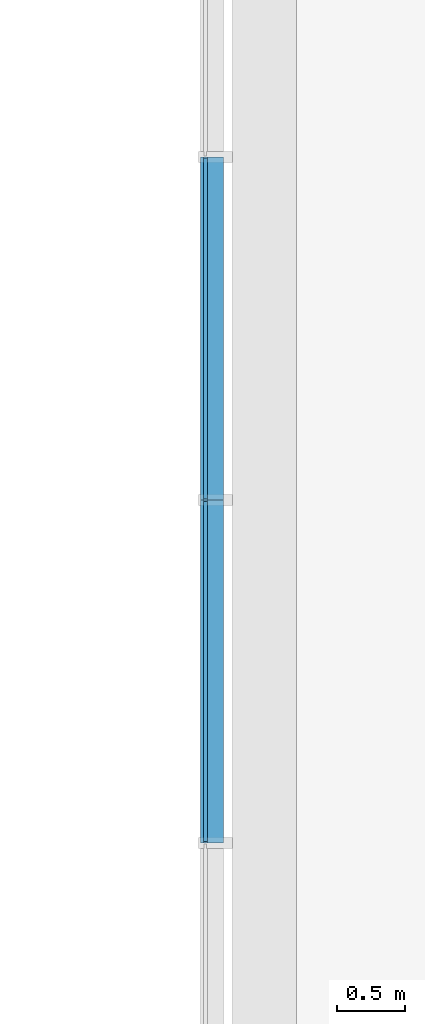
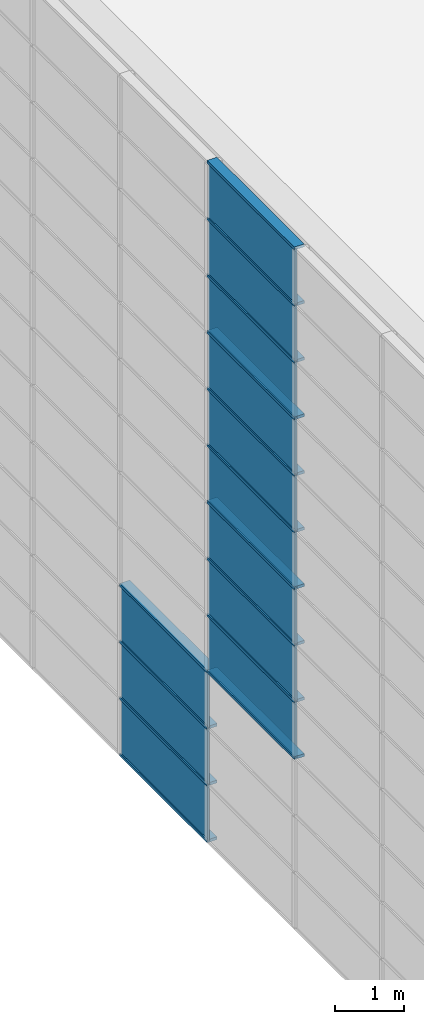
# One storey, part 11 of 105: 29 building element parts, 4 elements without a shape of their own.
"""IFC4 building model written with IfcOpenShell, lengths in millimetres."""

import ifcopenshell
import ifcopenshell.guid

model = None  # the IFC model being written
_history = None  # IfcOwnerHistory: only IFC2X3 demands one
_inside = {}  # id of a spatial element -> (the spatial element, [elements in it])
_under = {}  # id of a project, library or spatial element -> (it, [spatial elements below it])
_declared = {}  # id of a project -> (the project, [libraries it declares])
_typed = {}  # id of a type object -> (the type object, [elements of that type])
_made_of = {}  # id of a material, layer set ... -> (it, [elements and type objects made of it])


def new_model(schema):
    """Start an empty IFC model of exactly this schema.

    Asked for "IFC4X3", IfcOpenShell would pick the latest addendum, in which some entities
    have other attributes; the version numbers below select the first issue.
    IFC2X3 requires an IfcOwnerHistory on every rooted entity: one is made here for all.
    """
    global model, _history
    if schema == "IFC4X3":
        model = ifcopenshell.file(schema_version=(4, 3, 0, 0))
    else:
        model = ifcopenshell.file(schema=schema)
    _inside.clear()
    _under.clear()
    _declared.clear()
    _typed.clear()
    _made_of.clear()
    _history = None
    if model.schema == "IFC2X3":
        org = make("IfcOrganization", Name="unknown")
        user = make(
            "IfcPersonAndOrganization",
            ThePerson=make("IfcPerson", FamilyName="unknown"),
            TheOrganization=org,
        )
        app = make(
            "IfcApplication",
            ApplicationDeveloper=org,
            Version="unknown",
            ApplicationFullName="unknown",
            ApplicationIdentifier="unknown",
        )
        _history = make(
            "IfcOwnerHistory",
            OwningUser=user,
            OwningApplication=app,
            ChangeAction="ADDED",
            CreationDate=0,
        )
    return model


def make(cls, **values):
    """One entity of the class cls with the attributes given. An attribute that is None is left unset."""
    return model.create_entity(
        cls, **{name: value for name, value in values.items() if value is not None}
    )


def entity(cls, *values):
    """Any entity or typed value of the class cls, its attributes in the order of the schema. None: left unset."""
    e = model.create_entity(cls)
    for i, value in enumerate(values):
        if value is not None:
            e[i] = value
    return e


def rooted(cls, **values):
    """An entity with a GlobalId (a new one), such as an element, a storey or a relation."""
    return make(cls, GlobalId=ifcopenshell.guid.new(), OwnerHistory=_history, **values)


def si_unit(unit_type, name, prefix=None):
    """IfcSIUnit, for example si_unit("LENGTHUNIT", "METRE", prefix="MILLI")."""
    return make("IfcSIUnit", UnitType=unit_type, Prefix=prefix, Name=name)


def converted_unit(unit_type, name, factor, base, dimensions=None, offset=None):
    """IfcConversionBasedUnit, such as the inch: factor (a typed value) times the base unit."""
    return make(
        "IfcConversionBasedUnit"
        if offset is None
        else "IfcConversionBasedUnitWithOffset",
        ConversionOffset=offset,
        Dimensions=None
        if dimensions is None
        else entity("IfcDimensionalExponents", *dimensions),
        UnitType=unit_type,
        Name=name,
        ConversionFactor=make(
            "IfcMeasureWithUnit", ValueComponent=factor, UnitComponent=base
        ),
    )


def derived_unit(unit_type, elements):
    """IfcDerivedUnit: a product of units, each with its exponent."""
    return make(
        "IfcDerivedUnit",
        Elements=[
            make("IfcDerivedUnitElement", Unit=unit, Exponent=power)
            for unit, power in elements
        ],
        UnitType=unit_type,
    )


def assignment(units):
    """IfcUnitAssignment: the units of a project."""
    return None if units is None else make("IfcUnitAssignment", Units=units)


def point(xyz):
    """IfcCartesianPoint."""
    return None if xyz is None else make("IfcCartesianPoint", Coordinates=xyz)


def direction(xyz):
    """IfcDirection."""
    return None if xyz is None else make("IfcDirection", DirectionRatios=xyz)


def frame(location, z_axis=None, x_axis=None):
    """IfcAxis2Placement3D, a coordinate frame: its origin and axes. An axis left out is left unset."""
    return make(
        "IfcAxis2Placement3D",
        Location=point(location),
        Axis=direction(z_axis),
        RefDirection=direction(x_axis),
    )


def origin_with_axes():
    """The frame at (0, 0, 0) with the z axis (0, 0, 1) and the x axis (1, 0, 0) written out."""
    return frame((0.0, 0.0, 0.0), z_axis=(0.0, 0.0, 1.0), x_axis=(1.0, 0.0, 0.0))


def place(relative_to, where):
    """IfcLocalPlacement: puts the frame where relative to a parent placement (None: the world)."""
    return make(
        "IfcLocalPlacement", PlacementRelTo=relative_to, RelativePlacement=where
    )


def context(
    kind, dimensions, precision=None, world=None, true_north=None, identifier=None
):
    """IfcGeometricRepresentationContext, for example the 3D "Model" context."""
    return make(
        "IfcGeometricRepresentationContext",
        ContextIdentifier=identifier,
        ContextType=kind,
        CoordinateSpaceDimension=dimensions,
        Precision=precision,
        WorldCoordinateSystem=world,
        TrueNorth=true_north,
    )


def subcontext(parent, identifier, kind, view, scale=None):
    """IfcGeometricRepresentationSubContext, for example "Body" below "Model"."""
    return make(
        "IfcGeometricRepresentationSubContext",
        ContextIdentifier=identifier,
        ContextType=kind,
        ParentContext=parent,
        TargetScale=scale,
        TargetView=view,
    )


def project(units=None, contexts=None):
    """IfcProject with its units and contexts."""
    return rooted(
        "IfcProject",
        Name="project",
        RepresentationContexts=contexts,
        UnitsInContext=assignment(units),
    )


def spatial(cls, under=None, at=None, **own):
    """A site, building, storey or space (cls), placed at a placement, below another one or the project."""
    s = rooted(cls, ObjectPlacement=at, **own)
    if under is not None:
        _under.setdefault(under.id(), (under, []))[1].append(s)
    return s


def point_list(points):
    """IfcCartesianPointList2D or 3D."""
    cls = (
        "IfcCartesianPointList2D" if len(points[0]) == 2 else "IfcCartesianPointList3D"
    )
    return make(cls, CoordList=points)


def triangles(points, corners, closed=None, point_numbers=None):
    """IfcTriangulatedFaceSet: each triangle names its three corners, points numbered from 1."""
    return make(
        "IfcTriangulatedFaceSet",
        Coordinates=point_list(points),
        Closed=closed,
        CoordIndex=corners,
        PnIndex=point_numbers,
    )


def shape(context_of_items, identifier, shape_type, items):
    """IfcShapeRepresentation: the items that make up one representation, for example the "Body"."""
    return make(
        "IfcShapeRepresentation",
        ContextOfItems=context_of_items,
        RepresentationIdentifier=identifier,
        RepresentationType=shape_type,
        Items=items,
    )


def material(Name=None, Category=None):
    """IfcMaterial."""
    return make("IfcMaterial", Name=Name, Category=Category)


def made_of(thing, what):
    """Note that an element or type object is made of a material, layer set ...; save() writes the relation."""
    if what is not None:
        _made_of.setdefault(what.id(), (what, []))[1].append(thing)
    return thing


def element(
    cls,
    number,
    at=None,
    inside=None,
    cuts=None,
    type_object=None,
    material=None,
    context=None,
    identifier="Body",
    shape_type=None,
    held_by="IfcProductDefinitionShape",
    body=None,
    shapes=None,
    **own,
):
    """One element of the class cls, such as IfcWall. Its Tag is "e" and its number.

    at: its placement. inside: the storey or other place that contains it. cuts: it is an
    opening in that element (IfcRelVoidsElement). A single representation is given by context,
    identifier, shape_type and body (its items); several are given by shapes. held_by: the class
    of the entity that holds the representations. save() writes the other relations.
    """
    e = rooted(cls, Tag="e%d" % number, ObjectPlacement=at, **own)
    if body is not None:
        shapes = [shape(context, identifier, shape_type, body)]
    if shapes is not None:
        e.Representation = make(held_by, Representations=shapes)
    if inside is not None:
        _inside.setdefault(inside.id(), (inside, []))[1].append(e)
    if cuts is not None:
        rooted(
            "IfcRelVoidsElement", RelatingBuildingElement=cuts, RelatedOpeningElement=e
        )
    if type_object is not None:
        _typed.setdefault(type_object.id(), (type_object, []))[1].append(e)
    return made_of(e, material)


def aggregate(whole, parts):
    """IfcRelAggregates: a whole, such as a stair, and the parts it consists of."""
    return rooted("IfcRelAggregates", RelatingObject=whole, RelatedObjects=parts)


def save(model, path):
    """Write the relations noted so far, then the file.

    IfcRelAggregates (storeys below a building ...), IfcRelContainedInSpatialStructure (elements
    in a storey), IfcRelDefinesByType, IfcRelAssociatesMaterial and IfcRelDeclares: one each for
    every whole, place, type object, material and project.
    """
    for whole, parts in _under.values():
        aggregate(whole, parts)
    for where, things in _inside.values():
        rooted(
            "IfcRelContainedInSpatialStructure",
            RelatedElements=things,
            RelatingStructure=where,
        )
    for kind, things in _typed.values():
        rooted("IfcRelDefinesByType", RelatedObjects=things, RelatingType=kind)
    for what, things in _made_of.values():
        rooted("IfcRelAssociatesMaterial", RelatedObjects=things, RelatingMaterial=what)
    for by, libraries in _declared.values():
        rooted("IfcRelDeclares", RelatingContext=by, RelatedDefinitions=libraries)
    model.write(path)


model = new_model("IFC4")

# Units and contexts
model_context = context("Model", 3, precision=1e-05, world=origin_with_axes(), true_north=direction((0.0, 1.0)))
body_context = subcontext(model_context, "Body", "Model", "MODEL_VIEW")
ifc_project = project(units=[si_unit("LENGTHUNIT", "METRE", prefix="MILLI"), si_unit("AREAUNIT", "SQUARE_METRE"), si_unit("VOLUMEUNIT", "CUBIC_METRE"), converted_unit("PLANEANGLEUNIT", "DEGREE", entity("IfcLengthMeasure", 0.017453), si_unit("PLANEANGLEUNIT", "RADIAN"), dimensions=[0, 0, 0, 0, 0, 0, 0]), si_unit("SOLIDANGLEUNIT", "STERADIAN"), si_unit("MASSUNIT", "GRAM"), si_unit("TIMEUNIT", "SECOND"), si_unit("THERMODYNAMICTEMPERATUREUNIT", "DEGREE_CELSIUS"), si_unit("LUMINOUSINTENSITYUNIT", "LUMEN"), si_unit("POWERUNIT", "WATT"), derived_unit("THERMALTRANSMITTANCEUNIT", [(si_unit("POWERUNIT", "WATT"), 1), (si_unit("THERMODYNAMICTEMPERATUREUNIT", "KELVIN"), -1), (si_unit("AREAUNIT", "SQUARE_METRE"), -1)])], contexts=[model_context])

# Site, building, storey
site_placement = place(None, origin_with_axes())
site = spatial("IfcSite", under=ifc_project, at=site_placement, Name="Default Site", CompositionType="ELEMENT")
building_placement = place(site_placement, origin_with_axes())
building = spatial("IfcBuilding", under=site, at=building_placement, Name="Default Building", CompositionType="ELEMENT")
storey_placement = place(building_placement, origin_with_axes())
storey = spatial("IfcBuildingStorey", under=building, at=storey_placement, Name="OG - Story", CompositionType="ELEMENT", Elevation=0.0)

# Curtain wall, building element parts
curtain_wall_1_placement = place(storey_placement, origin_with_axes())
curtain_wall_1 = element("IfcCurtainWall", 1, at=curtain_wall_1_placement, inside=storey, Name="Fassade-003", PredefinedType="NOTDEFINED")
ifc_material_1 = material(Name="Normalglas")
building_element_part_1_placement = place(curtain_wall_1_placement, frame((31551.391327, -51326.104944, 0.0), z_axis=(0.0, 0.0, 1.0), x_axis=(1.0, 0.0, 0.0)))
building_element_part_1 = element("IfcBuildingElementPart", 2, at=building_element_part_1_placement, material=ifc_material_1, Name="Normalglas", PredefinedType="NOTDEFINED", context=body_context, shape_type="Tessellation", body=[
    triangles([(15.0, 16411.053, 995.0), (-14.999, 16411.053, 995.0), (-14.999, 13904.737, 995.0), (15.0, 13904.737, 995.0), (15.0, 16411.053, 5.0), (-14.999, 16411.053, 5.0), (-14.999, 13904.737, 5.0), (15.0, 13904.737, 5.0)], [[1, 2, 3], [1, 3, 4], [5, 6, 2], [5, 2, 1], [2, 6, 7], [2, 7, 3], [4, 3, 7], [4, 7, 8], [1, 4, 8], [1, 8, 5], [8, 7, 6], [8, 6, 5]], closed=False),
])
building_element_part_2_placement = place(curtain_wall_1_placement, frame((31551.391327, -51326.104944, 0.0), z_axis=(0.0, 0.0, 1.0), x_axis=(1.0, 0.0, 0.0)))
building_element_part_2 = element("IfcBuildingElementPart", 3, at=building_element_part_2_placement, material=ifc_material_1, Name="Normalglas", PredefinedType="NOTDEFINED", context=body_context, shape_type="Tessellation", body=[
    triangles([(15.0, 16411.053, 1995.0), (-14.999, 16411.053, 1995.0), (-14.999, 13904.737, 1995.0), (15.0, 13904.737, 1995.0), (15.0, 16411.053, 1005.0), (-14.999, 16411.053, 1005.0), (-14.999, 13904.737, 1005.0), (15.0, 13904.737, 1005.0)], [[1, 2, 3], [1, 3, 4], [5, 6, 2], [5, 2, 1], [2, 6, 7], [2, 7, 3], [4, 3, 7], [4, 7, 8], [1, 4, 8], [1, 8, 5], [8, 7, 6], [8, 6, 5]], closed=False),
])
building_element_part_3_placement = place(curtain_wall_1_placement, frame((31551.391327, -51326.104944, 0.0), z_axis=(0.0, 0.0, 1.0), x_axis=(1.0, 0.0, 0.0)))
building_element_part_3 = element("IfcBuildingElementPart", 4, at=building_element_part_3_placement, material=ifc_material_1, Name="Normalglas", PredefinedType="NOTDEFINED", context=body_context, shape_type="Tessellation", body=[
    triangles([(15.0, 16411.053, 2995.0), (-14.999, 16411.053, 2995.0), (-14.999, 13904.737, 2995.0), (15.0, 13904.737, 2995.0), (15.0, 16411.053, 2005.0), (-14.999, 16411.053, 2005.0), (-14.999, 13904.737, 2005.0), (15.0, 13904.737, 2005.0)], [[1, 2, 3], [1, 3, 4], [5, 6, 2], [5, 2, 1], [2, 6, 7], [2, 7, 3], [4, 3, 7], [4, 7, 8], [1, 4, 8], [1, 8, 5], [8, 7, 6], [8, 6, 5]], closed=False),
])
ifc_material_2 = material(Name="Blech")
building_element_part_4_placement = place(curtain_wall_1_placement, frame((31551.391327, -51326.104944, 0.0), z_axis=(0.0, 0.0, 1.0), x_axis=(1.0, 0.0, 0.0)))
building_element_part_4 = element("IfcBuildingElementPart", 5, at=building_element_part_4_placement, material=ifc_material_2, Name="Blech", PredefinedType="NOTDEFINED", context=body_context, shape_type="Tessellation", body=[
    triangles([(15.0, 16421.053, 25.0), (133.0, 16421.053, 25.0), (15.0, 16421.053, 5.0), (133.0, 16421.053, -24.999), (-14.999, 16421.053, 5.0), (-34.999, 16421.053, -24.999), (-34.999, 16421.053, 25.0), (-14.999, 16421.053, 25.0), (15.0, 13894.737, 5.0), (15.0, 13894.737, 25.0), (133.0, 13894.737, 25.0), (133.0, 13894.737, -24.999), (-34.999, 13894.737, -24.999), (-34.999, 13894.737, 25.0), (-14.999, 13894.737, 25.0), (-14.999, 13894.737, 5.0)], [[1, 2, 3], [3, 2, 4], [3, 4, 5], [5, 4, 6], [5, 6, 7], [5, 7, 8], [3, 9, 10], [3, 10, 1], [10, 11, 2], [10, 2, 1], [11, 12, 4], [11, 4, 2], [12, 13, 6], [12, 6, 4], [13, 14, 7], [13, 7, 6], [8, 7, 14], [8, 14, 15], [15, 16, 5], [15, 5, 8], [5, 16, 9], [5, 9, 3], [16, 9, 12], [16, 12, 13], [16, 13, 14], [16, 14, 15], [11, 12, 9], [11, 9, 10]], closed=False),
])
building_element_part_5_placement = place(curtain_wall_1_placement, frame((31551.391327, -51326.104944, 0.0), z_axis=(0.0, 0.0, 1.0), x_axis=(1.0, 0.0, 0.0)))
building_element_part_5 = element("IfcBuildingElementPart", 6, at=building_element_part_5_placement, material=ifc_material_2, Name="Blech", PredefinedType="NOTDEFINED", context=body_context, shape_type="Tessellation", body=[
    triangles([(-14.999, 16421.053, 1025.0), (-34.999, 16421.053, 1025.0), (-14.999, 16421.053, 1005.0), (-14.999, 16421.053, 995.0), (15.0, 16421.053, 1005.0), (133.0, 16421.053, 1025.0), (15.0, 16421.053, 1025.0), (-34.999, 16421.053, 975.0), (-14.999, 16421.053, 975.0), (15.0, 16421.053, 995.0), (15.0, 16421.053, 975.0), (133.0, 16421.053, 975.0), (15.0, 13894.737, 995.0), (-14.999, 13894.737, 995.0), (-14.999, 13894.737, 975.0), (-34.999, 13894.737, 975.0), (-34.999, 13894.737, 1025.0), (-14.999, 13894.737, 1025.0), (-14.999, 13894.737, 1005.0), (15.0, 13894.737, 1005.0), (15.0, 13894.737, 1025.0), (133.0, 13894.737, 1025.0), (133.0, 13894.737, 975.0), (15.0, 13894.737, 975.0)], [[1, 2, 3], [3, 2, 4], [3, 4, 5], [5, 4, 6], [5, 6, 7], [8, 9, 4], [8, 4, 2], [6, 4, 10], [6, 10, 11], [6, 11, 12], [10, 13, 14], [10, 14, 4], [4, 14, 15], [4, 15, 9], [15, 16, 8], [15, 8, 9], [8, 16, 17], [8, 17, 2], [18, 1, 2], [18, 2, 17], [1, 18, 19], [1, 19, 3], [5, 3, 19], [5, 19, 20], [7, 5, 20], [7, 20, 21], [7, 21, 22], [7, 22, 6], [6, 22, 23], [6, 23, 12], [11, 12, 23], [11, 23, 24], [11, 24, 13], [11, 13, 10], [21, 22, 20], [20, 22, 13], [20, 13, 19], [19, 13, 14], [19, 14, 17], [17, 14, 15], [17, 15, 16], [23, 24, 13], [23, 13, 22], [19, 17, 18]], closed=False),
])
building_element_part_6_placement = place(curtain_wall_1_placement, frame((31551.391327, -51326.104944, 0.0), z_axis=(0.0, 0.0, 1.0), x_axis=(1.0, 0.0, 0.0)))
building_element_part_6 = element("IfcBuildingElementPart", 7, at=building_element_part_6_placement, material=ifc_material_2, Name="Blech", PredefinedType="NOTDEFINED", context=body_context, shape_type="Tessellation", body=[
    triangles([(-14.999, 13894.737, 2995.0), (15.0, 13894.737, 2995.0), (133.0, 13894.737, 3025.0), (-34.999, 13894.737, 3025.0), (-34.999, 13894.737, 2975.0), (-14.999, 13894.737, 2975.0), (15.0, 13894.737, 2975.0), (133.0, 13894.737, 2975.0), (15.0, 11368.421, 2995.0), (-14.999, 11368.421, 2995.0), (-14.999, 11368.421, 2975.0), (-34.999, 11368.421, 2975.0), (-34.999, 11368.421, 3025.0), (133.0, 11368.421, 3025.0), (133.0, 11368.421, 2975.0), (15.0, 11368.421, 2975.0)], [[1, 2, 3], [1, 3, 4], [1, 4, 5], [1, 5, 6], [7, 8, 3], [7, 3, 2], [1, 2, 9], [1, 9, 10], [11, 6, 1], [11, 1, 10], [6, 11, 12], [6, 12, 5], [13, 4, 5], [13, 5, 12], [14, 3, 4], [14, 4, 13], [15, 8, 3], [15, 3, 14], [16, 7, 8], [16, 8, 15], [2, 7, 16], [2, 16, 9], [10, 9, 14], [10, 14, 13], [10, 13, 12], [10, 12, 11], [16, 15, 14], [16, 14, 9]], closed=False),
])
building_element_part_7_placement = place(curtain_wall_1_placement, frame((31551.391327, -51326.104944, 0.0), z_axis=(0.0, 0.0, 1.0), x_axis=(1.0, 0.0, 0.0)))
building_element_part_7 = element("IfcBuildingElementPart", 8, at=building_element_part_7_placement, material=ifc_material_2, Name="Blech", PredefinedType="NOTDEFINED", context=body_context, shape_type="Tessellation", body=[
    triangles([(-14.999, 16421.053, 2025.0), (-34.999, 16421.053, 2025.0), (-14.999, 16421.053, 2005.0), (-14.999, 16421.053, 1995.0), (15.0, 16421.053, 2005.0), (133.0, 16421.053, 2025.0), (15.0, 16421.053, 2025.0), (-34.999, 16421.053, 1975.0), (-14.999, 16421.053, 1975.0), (15.0, 16421.053, 1995.0), (15.0, 16421.053, 1975.0), (133.0, 16421.053, 1975.0), (15.0, 13894.737, 1995.0), (-14.999, 13894.737, 1995.0), (-14.999, 13894.737, 1975.0), (-34.999, 13894.737, 1975.0), (-34.999, 13894.737, 2025.0), (-14.999, 13894.737, 2025.0), (-14.999, 13894.737, 2005.0), (15.0, 13894.737, 2005.0), (15.0, 13894.737, 2025.0), (133.0, 13894.737, 2025.0), (133.0, 13894.737, 1975.0), (15.0, 13894.737, 1975.0)], [[1, 2, 3], [3, 2, 4], [3, 4, 5], [5, 4, 6], [5, 6, 7], [8, 9, 4], [8, 4, 2], [6, 4, 10], [6, 10, 11], [6, 11, 12], [10, 13, 14], [10, 14, 4], [4, 14, 15], [4, 15, 9], [15, 16, 8], [15, 8, 9], [8, 16, 17], [8, 17, 2], [18, 1, 2], [18, 2, 17], [1, 18, 19], [1, 19, 3], [5, 3, 19], [5, 19, 20], [7, 5, 20], [7, 20, 21], [7, 21, 22], [7, 22, 6], [6, 22, 23], [6, 23, 12], [11, 12, 23], [11, 23, 24], [11, 24, 13], [11, 13, 10], [21, 22, 20], [20, 22, 13], [20, 13, 19], [19, 13, 14], [19, 14, 17], [17, 14, 15], [17, 15, 16], [23, 24, 13], [23, 13, 22], [19, 17, 18]], closed=False),
])
building_element_part_8_placement = place(curtain_wall_1_placement, frame((31551.391327, -51326.104944, 0.0), z_axis=(0.0, 0.0, 1.0), x_axis=(1.0, 0.0, 0.0)))
building_element_part_8 = element("IfcBuildingElementPart", 9, at=building_element_part_8_placement, material=ifc_material_2, Name="Blech", PredefinedType="NOTDEFINED", context=body_context, shape_type="Tessellation", body=[
    triangles([(-14.999, 16421.053, 2995.0), (15.0, 16421.053, 2995.0), (133.0, 16421.053, 3025.0), (-34.999, 16421.053, 3025.0), (-34.999, 16421.053, 2975.0), (-14.999, 16421.053, 2975.0), (15.0, 16421.053, 2975.0), (133.0, 16421.053, 2975.0), (15.0, 13894.737, 2995.0), (-14.999, 13894.737, 2995.0), (-14.999, 13894.737, 2975.0), (-34.999, 13894.737, 2975.0), (-34.999, 13894.737, 3025.0), (133.0, 13894.737, 3025.0), (133.0, 13894.737, 2975.0), (15.0, 13894.737, 2975.0)], [[1, 2, 3], [1, 3, 4], [1, 4, 5], [1, 5, 6], [7, 8, 3], [7, 3, 2], [1, 2, 9], [1, 9, 10], [11, 6, 1], [11, 1, 10], [6, 11, 12], [6, 12, 5], [13, 4, 5], [13, 5, 12], [14, 3, 4], [14, 4, 13], [15, 8, 3], [15, 3, 14], [16, 7, 8], [16, 8, 15], [2, 7, 16], [2, 16, 9], [10, 9, 14], [10, 14, 13], [10, 13, 12], [10, 12, 11], [16, 15, 14], [16, 14, 9]], closed=False),
])
aggregate(curtain_wall_1, [building_element_part_1, building_element_part_2, building_element_part_3, building_element_part_4, building_element_part_5, building_element_part_6, building_element_part_7, building_element_part_8])

curtain_wall_2_placement = place(storey_placement, origin_with_axes())
curtain_wall_2 = element("IfcCurtainWall", 10, at=curtain_wall_2_placement, inside=storey, Name="Fassade-003", PredefinedType="NOTDEFINED")
building_element_part_9_placement = place(curtain_wall_2_placement, frame((31551.391327, -51326.104944, 3000.0), z_axis=(0.0, 0.0, 1.0), x_axis=(1.0, 0.0, 0.0)))
building_element_part_9 = element("IfcBuildingElementPart", 11, at=building_element_part_9_placement, material=ifc_material_1, Name="Normalglas", PredefinedType="NOTDEFINED", context=body_context, shape_type="Tessellation", body=[
    triangles([(15.0, 13884.737, 995.0), (-14.999, 13884.737, 995.0), (-14.999, 11378.421, 995.0), (15.0, 11378.421, 995.0), (15.0, 13884.737, 5.0), (-14.999, 13884.737, 5.0), (-14.999, 11378.421, 5.0), (15.0, 11378.421, 5.0)], [[1, 2, 3], [1, 3, 4], [5, 6, 2], [5, 2, 1], [2, 6, 7], [2, 7, 3], [4, 3, 7], [4, 7, 8], [1, 4, 8], [1, 8, 5], [8, 7, 6], [8, 6, 5]], closed=False),
])
building_element_part_10_placement = place(curtain_wall_2_placement, frame((31551.391327, -51326.104944, 3000.0), z_axis=(0.0, 0.0, 1.0), x_axis=(1.0, 0.0, 0.0)))
building_element_part_10 = element("IfcBuildingElementPart", 12, at=building_element_part_10_placement, material=ifc_material_1, Name="Normalglas", PredefinedType="NOTDEFINED", context=body_context, shape_type="Tessellation", body=[
    triangles([(15.0, 13884.737, 1995.0), (-14.999, 13884.737, 1995.0), (-14.999, 11378.421, 1995.0), (15.0, 11378.421, 1995.0), (15.0, 13884.737, 1005.0), (-14.999, 13884.737, 1005.0), (-14.999, 11378.421, 1005.0), (15.0, 11378.421, 1005.0)], [[1, 2, 3], [1, 3, 4], [5, 6, 2], [5, 2, 1], [2, 6, 7], [2, 7, 3], [4, 3, 7], [4, 7, 8], [1, 4, 8], [1, 8, 5], [8, 7, 6], [8, 6, 5]], closed=False),
])
building_element_part_11_placement = place(curtain_wall_2_placement, frame((31551.391327, -51326.104944, 3000.0), z_axis=(0.0, 0.0, 1.0), x_axis=(1.0, 0.0, 0.0)))
building_element_part_11 = element("IfcBuildingElementPart", 13, at=building_element_part_11_placement, material=ifc_material_1, Name="Normalglas", PredefinedType="NOTDEFINED", context=body_context, shape_type="Tessellation", body=[
    triangles([(15.0, 13884.737, 2995.0), (-14.999, 13884.737, 2995.0), (-14.999, 11378.421, 2995.0), (15.0, 11378.421, 2995.0), (15.0, 13884.737, 2005.0), (-14.999, 13884.737, 2005.0), (-14.999, 11378.421, 2005.0), (15.0, 11378.421, 2005.0)], [[1, 2, 3], [1, 3, 4], [5, 6, 2], [5, 2, 1], [2, 6, 7], [2, 7, 3], [4, 3, 7], [4, 7, 8], [1, 4, 8], [1, 8, 5], [8, 7, 6], [8, 6, 5]], closed=False),
])
building_element_part_12_placement = place(curtain_wall_2_placement, frame((31551.391327, -51326.104944, 3000.0), z_axis=(0.0, 0.0, 1.0), x_axis=(1.0, 0.0, 0.0)))
building_element_part_12 = element("IfcBuildingElementPart", 14, at=building_element_part_12_placement, material=ifc_material_2, Name="Blech", PredefinedType="NOTDEFINED", context=body_context, shape_type="Tessellation", body=[
    triangles([(15.0, 13894.737, 25.0), (133.0, 13894.737, 25.0), (15.0, 13894.737, 5.0), (133.0, 13894.737, -24.999), (-14.999, 13894.737, 5.0), (-34.999, 13894.737, -24.999), (-34.999, 13894.737, 25.0), (-14.999, 13894.737, 25.0), (15.0, 11368.421, 5.0), (15.0, 11368.421, 25.0), (133.0, 11368.421, 25.0), (133.0, 11368.421, -24.999), (-34.999, 11368.421, -24.999), (-34.999, 11368.421, 25.0), (-14.999, 11368.421, 25.0), (-14.999, 11368.421, 5.0)], [[1, 2, 3], [3, 2, 4], [3, 4, 5], [5, 4, 6], [5, 6, 7], [5, 7, 8], [3, 9, 10], [3, 10, 1], [10, 11, 2], [10, 2, 1], [11, 12, 4], [11, 4, 2], [12, 13, 6], [12, 6, 4], [13, 14, 7], [13, 7, 6], [8, 7, 14], [8, 14, 15], [15, 16, 5], [15, 5, 8], [5, 16, 9], [5, 9, 3], [16, 9, 12], [16, 12, 13], [16, 13, 14], [16, 14, 15], [11, 12, 9], [11, 9, 10]], closed=False),
])
building_element_part_13_placement = place(curtain_wall_2_placement, frame((31551.391327, -51326.104944, 3000.0), z_axis=(0.0, 0.0, 1.0), x_axis=(1.0, 0.0, 0.0)))
building_element_part_13 = element("IfcBuildingElementPart", 15, at=building_element_part_13_placement, material=ifc_material_2, Name="Blech", PredefinedType="NOTDEFINED", context=body_context, shape_type="Tessellation", body=[
    triangles([(-14.999, 13894.737, 1025.0), (-34.999, 13894.737, 1025.0), (-14.999, 13894.737, 1005.0), (-14.999, 13894.737, 995.0), (15.0, 13894.737, 1005.0), (133.0, 13894.737, 1025.0), (15.0, 13894.737, 1025.0), (-34.999, 13894.737, 975.0), (-14.999, 13894.737, 975.0), (15.0, 13894.737, 995.0), (15.0, 13894.737, 975.0), (133.0, 13894.737, 975.0), (15.0, 11368.421, 995.0), (-14.999, 11368.421, 995.0), (-14.999, 11368.421, 975.0), (-34.999, 11368.421, 975.0), (-34.999, 11368.421, 1025.0), (-14.999, 11368.421, 1025.0), (-14.999, 11368.421, 1005.0), (15.0, 11368.421, 1005.0), (15.0, 11368.421, 1025.0), (133.0, 11368.421, 1025.0), (133.0, 11368.421, 975.0), (15.0, 11368.421, 975.0)], [[1, 2, 3], [3, 2, 4], [3, 4, 5], [5, 4, 6], [5, 6, 7], [8, 9, 4], [8, 4, 2], [6, 4, 10], [6, 10, 11], [6, 11, 12], [10, 13, 14], [10, 14, 4], [4, 14, 15], [4, 15, 9], [15, 16, 8], [15, 8, 9], [8, 16, 17], [8, 17, 2], [18, 1, 2], [18, 2, 17], [1, 18, 19], [1, 19, 3], [5, 3, 19], [5, 19, 20], [7, 5, 20], [7, 20, 21], [7, 21, 22], [7, 22, 6], [6, 22, 23], [6, 23, 12], [11, 12, 23], [11, 23, 24], [11, 24, 13], [11, 13, 10], [21, 22, 20], [20, 22, 13], [20, 13, 19], [19, 13, 14], [19, 14, 17], [17, 14, 15], [17, 15, 16], [23, 24, 13], [23, 13, 22], [19, 17, 18]], closed=False),
])
building_element_part_14_placement = place(curtain_wall_2_placement, frame((31551.391327, -51326.104944, 3000.0), z_axis=(0.0, 0.0, 1.0), x_axis=(1.0, 0.0, 0.0)))
building_element_part_14 = element("IfcBuildingElementPart", 16, at=building_element_part_14_placement, material=ifc_material_2, Name="Blech", PredefinedType="NOTDEFINED", context=body_context, shape_type="Tessellation", body=[
    triangles([(-14.999, 13894.737, 2025.0), (-34.999, 13894.737, 2025.0), (-14.999, 13894.737, 2005.0), (-14.999, 13894.737, 1995.0), (15.0, 13894.737, 2005.0), (133.0, 13894.737, 2025.0), (15.0, 13894.737, 2025.0), (-34.999, 13894.737, 1975.0), (-14.999, 13894.737, 1975.0), (15.0, 13894.737, 1995.0), (15.0, 13894.737, 1975.0), (133.0, 13894.737, 1975.0), (15.0, 11368.421, 1995.0), (-14.999, 11368.421, 1995.0), (-14.999, 11368.421, 1975.0), (-34.999, 11368.421, 1975.0), (-34.999, 11368.421, 2025.0), (-14.999, 11368.421, 2025.0), (-14.999, 11368.421, 2005.0), (15.0, 11368.421, 2005.0), (15.0, 11368.421, 2025.0), (133.0, 11368.421, 2025.0), (133.0, 11368.421, 1975.0), (15.0, 11368.421, 1975.0)], [[1, 2, 3], [3, 2, 4], [3, 4, 5], [5, 4, 6], [5, 6, 7], [8, 9, 4], [8, 4, 2], [6, 4, 10], [6, 10, 11], [6, 11, 12], [10, 13, 14], [10, 14, 4], [4, 14, 15], [4, 15, 9], [15, 16, 8], [15, 8, 9], [8, 16, 17], [8, 17, 2], [18, 1, 2], [18, 2, 17], [1, 18, 19], [1, 19, 3], [5, 3, 19], [5, 19, 20], [7, 5, 20], [7, 20, 21], [7, 21, 22], [7, 22, 6], [6, 22, 23], [6, 23, 12], [11, 12, 23], [11, 23, 24], [11, 24, 13], [11, 13, 10], [21, 22, 20], [20, 22, 13], [20, 13, 19], [19, 13, 14], [19, 14, 17], [17, 14, 15], [17, 15, 16], [23, 24, 13], [23, 13, 22], [19, 17, 18]], closed=False),
])
building_element_part_15_placement = place(curtain_wall_2_placement, frame((31551.391327, -51326.104944, 3000.0), z_axis=(0.0, 0.0, 1.0), x_axis=(1.0, 0.0, 0.0)))
building_element_part_15 = element("IfcBuildingElementPart", 17, at=building_element_part_15_placement, material=ifc_material_2, Name="Blech", PredefinedType="NOTDEFINED", context=body_context, shape_type="Tessellation", body=[
    triangles([(-14.999, 13894.737, 2995.0), (15.0, 13894.737, 2995.0), (133.0, 13894.737, 3025.0), (-34.999, 13894.737, 3025.0), (-34.999, 13894.737, 2975.0), (-14.999, 13894.737, 2975.0), (15.0, 13894.737, 2975.0), (133.0, 13894.737, 2975.0), (15.0, 11368.421, 2995.0), (-14.999, 11368.421, 2995.0), (-14.999, 11368.421, 2975.0), (-34.999, 11368.421, 2975.0), (-34.999, 11368.421, 3025.0), (133.0, 11368.421, 3025.0), (133.0, 11368.421, 2975.0), (15.0, 11368.421, 2975.0)], [[1, 2, 3], [1, 3, 4], [1, 4, 5], [1, 5, 6], [7, 8, 3], [7, 3, 2], [1, 2, 9], [1, 9, 10], [11, 6, 1], [11, 1, 10], [6, 11, 12], [6, 12, 5], [13, 4, 5], [13, 5, 12], [14, 3, 4], [14, 4, 13], [15, 8, 3], [15, 3, 14], [16, 7, 8], [16, 8, 15], [2, 7, 16], [2, 16, 9], [10, 9, 14], [10, 14, 13], [10, 13, 12], [10, 12, 11], [16, 15, 14], [16, 14, 9]], closed=False),
])
aggregate(curtain_wall_2, [building_element_part_9, building_element_part_10, building_element_part_11, building_element_part_12, building_element_part_13, building_element_part_14, building_element_part_15])

curtain_wall_3_placement = place(storey_placement, origin_with_axes())
curtain_wall_3 = element("IfcCurtainWall", 18, at=curtain_wall_3_placement, inside=storey, Name="Fassade-003", PredefinedType="NOTDEFINED")
building_element_part_16_placement = place(curtain_wall_3_placement, frame((31551.391327, -51326.104944, 6000.0), z_axis=(0.0, 0.0, 1.0), x_axis=(1.0, 0.0, 0.0)))
building_element_part_16 = element("IfcBuildingElementPart", 19, at=building_element_part_16_placement, material=ifc_material_1, Name="Normalglas", PredefinedType="NOTDEFINED", context=body_context, shape_type="Tessellation", body=[
    triangles([(15.0, 13884.737, 995.0), (-14.999, 13884.737, 995.0), (-14.999, 11378.421, 995.0), (15.0, 11378.421, 995.0), (15.0, 13884.737, 5.0), (-14.999, 13884.737, 5.0), (-14.999, 11378.421, 5.0), (15.0, 11378.421, 5.0)], [[1, 2, 3], [1, 3, 4], [5, 6, 2], [5, 2, 1], [2, 6, 7], [2, 7, 3], [4, 3, 7], [4, 7, 8], [1, 4, 8], [1, 8, 5], [8, 7, 6], [8, 6, 5]], closed=False),
])
building_element_part_17_placement = place(curtain_wall_3_placement, frame((31551.391327, -51326.104944, 6000.0), z_axis=(0.0, 0.0, 1.0), x_axis=(1.0, 0.0, 0.0)))
building_element_part_17 = element("IfcBuildingElementPart", 20, at=building_element_part_17_placement, material=ifc_material_1, Name="Normalglas", PredefinedType="NOTDEFINED", context=body_context, shape_type="Tessellation", body=[
    triangles([(15.0, 13884.737, 1995.0), (-14.999, 13884.737, 1995.0), (-14.999, 11378.421, 1995.0), (15.0, 11378.421, 1995.0), (15.0, 13884.737, 1005.0), (-14.999, 13884.737, 1005.0), (-14.999, 11378.421, 1005.0), (15.0, 11378.421, 1005.0)], [[1, 2, 3], [1, 3, 4], [5, 6, 2], [5, 2, 1], [2, 6, 7], [2, 7, 3], [4, 3, 7], [4, 7, 8], [1, 4, 8], [1, 8, 5], [8, 7, 6], [8, 6, 5]], closed=False),
])
building_element_part_18_placement = place(curtain_wall_3_placement, frame((31551.391327, -51326.104944, 6000.0), z_axis=(0.0, 0.0, 1.0), x_axis=(1.0, 0.0, 0.0)))
building_element_part_18 = element("IfcBuildingElementPart", 21, at=building_element_part_18_placement, material=ifc_material_1, Name="Normalglas", PredefinedType="NOTDEFINED", context=body_context, shape_type="Tessellation", body=[
    triangles([(15.0, 13884.737, 2995.0), (-14.999, 13884.737, 2995.0), (-14.999, 11378.421, 2995.0), (15.0, 11378.421, 2995.0), (15.0, 13884.737, 2005.0), (-14.999, 13884.737, 2005.0), (-14.999, 11378.421, 2005.0), (15.0, 11378.421, 2005.0)], [[1, 2, 3], [1, 3, 4], [5, 6, 2], [5, 2, 1], [2, 6, 7], [2, 7, 3], [4, 3, 7], [4, 7, 8], [1, 4, 8], [1, 8, 5], [8, 7, 6], [8, 6, 5]], closed=False),
])
building_element_part_19_placement = place(curtain_wall_3_placement, frame((31551.391327, -51326.104944, 6000.0), z_axis=(0.0, 0.0, 1.0), x_axis=(1.0, 0.0, 0.0)))
building_element_part_19 = element("IfcBuildingElementPart", 22, at=building_element_part_19_placement, material=ifc_material_2, Name="Blech", PredefinedType="NOTDEFINED", context=body_context, shape_type="Tessellation", body=[
    triangles([(15.0, 13894.737, 25.0), (133.0, 13894.737, 25.0), (15.0, 13894.737, 5.0), (133.0, 13894.737, -24.999), (-14.999, 13894.737, 5.0), (-34.999, 13894.737, -24.999), (-34.999, 13894.737, 25.0), (-14.999, 13894.737, 25.0), (15.0, 11368.421, 5.0), (15.0, 11368.421, 25.0), (133.0, 11368.421, 25.0), (133.0, 11368.421, -24.999), (-34.999, 11368.421, -24.999), (-34.999, 11368.421, 25.0), (-14.999, 11368.421, 25.0), (-14.999, 11368.421, 5.0)], [[1, 2, 3], [3, 2, 4], [3, 4, 5], [5, 4, 6], [5, 6, 7], [5, 7, 8], [3, 9, 10], [3, 10, 1], [10, 11, 2], [10, 2, 1], [11, 12, 4], [11, 4, 2], [12, 13, 6], [12, 6, 4], [13, 14, 7], [13, 7, 6], [8, 7, 14], [8, 14, 15], [15, 16, 5], [15, 5, 8], [5, 16, 9], [5, 9, 3], [16, 9, 12], [16, 12, 13], [16, 13, 14], [16, 14, 15], [11, 12, 9], [11, 9, 10]], closed=False),
])
building_element_part_20_placement = place(curtain_wall_3_placement, frame((31551.391327, -51326.104944, 6000.0), z_axis=(0.0, 0.0, 1.0), x_axis=(1.0, 0.0, 0.0)))
building_element_part_20 = element("IfcBuildingElementPart", 23, at=building_element_part_20_placement, material=ifc_material_2, Name="Blech", PredefinedType="NOTDEFINED", context=body_context, shape_type="Tessellation", body=[
    triangles([(-14.999, 13894.737, 1025.0), (-34.999, 13894.737, 1025.0), (-14.999, 13894.737, 1005.0), (-14.999, 13894.737, 995.0), (15.0, 13894.737, 1005.0), (133.0, 13894.737, 1025.0), (15.0, 13894.737, 1025.0), (-34.999, 13894.737, 975.0), (-14.999, 13894.737, 975.0), (15.0, 13894.737, 995.0), (15.0, 13894.737, 975.0), (133.0, 13894.737, 975.0), (15.0, 11368.421, 995.0), (-14.999, 11368.421, 995.0), (-14.999, 11368.421, 975.0), (-34.999, 11368.421, 975.0), (-34.999, 11368.421, 1025.0), (-14.999, 11368.421, 1025.0), (-14.999, 11368.421, 1005.0), (15.0, 11368.421, 1005.0), (15.0, 11368.421, 1025.0), (133.0, 11368.421, 1025.0), (133.0, 11368.421, 975.0), (15.0, 11368.421, 975.0)], [[1, 2, 3], [3, 2, 4], [3, 4, 5], [5, 4, 6], [5, 6, 7], [8, 9, 4], [8, 4, 2], [6, 4, 10], [6, 10, 11], [6, 11, 12], [10, 13, 14], [10, 14, 4], [4, 14, 15], [4, 15, 9], [15, 16, 8], [15, 8, 9], [8, 16, 17], [8, 17, 2], [18, 1, 2], [18, 2, 17], [1, 18, 19], [1, 19, 3], [5, 3, 19], [5, 19, 20], [7, 5, 20], [7, 20, 21], [7, 21, 22], [7, 22, 6], [6, 22, 23], [6, 23, 12], [11, 12, 23], [11, 23, 24], [11, 24, 13], [11, 13, 10], [21, 22, 20], [20, 22, 13], [20, 13, 19], [19, 13, 14], [19, 14, 17], [17, 14, 15], [17, 15, 16], [23, 24, 13], [23, 13, 22], [19, 17, 18]], closed=False),
])
building_element_part_21_placement = place(curtain_wall_3_placement, frame((31551.391327, -51326.104944, 6000.0), z_axis=(0.0, 0.0, 1.0), x_axis=(1.0, 0.0, 0.0)))
building_element_part_21 = element("IfcBuildingElementPart", 24, at=building_element_part_21_placement, material=ifc_material_2, Name="Blech", PredefinedType="NOTDEFINED", context=body_context, shape_type="Tessellation", body=[
    triangles([(-14.999, 13894.737, 2025.0), (-34.999, 13894.737, 2025.0), (-14.999, 13894.737, 2005.0), (-14.999, 13894.737, 1995.0), (15.0, 13894.737, 2005.0), (133.0, 13894.737, 2025.0), (15.0, 13894.737, 2025.0), (-34.999, 13894.737, 1975.0), (-14.999, 13894.737, 1975.0), (15.0, 13894.737, 1995.0), (15.0, 13894.737, 1975.0), (133.0, 13894.737, 1975.0), (15.0, 11368.421, 1995.0), (-14.999, 11368.421, 1995.0), (-14.999, 11368.421, 1975.0), (-34.999, 11368.421, 1975.0), (-34.999, 11368.421, 2025.0), (-14.999, 11368.421, 2025.0), (-14.999, 11368.421, 2005.0), (15.0, 11368.421, 2005.0), (15.0, 11368.421, 2025.0), (133.0, 11368.421, 2025.0), (133.0, 11368.421, 1975.0), (15.0, 11368.421, 1975.0)], [[1, 2, 3], [3, 2, 4], [3, 4, 5], [5, 4, 6], [5, 6, 7], [8, 9, 4], [8, 4, 2], [6, 4, 10], [6, 10, 11], [6, 11, 12], [10, 13, 14], [10, 14, 4], [4, 14, 15], [4, 15, 9], [15, 16, 8], [15, 8, 9], [8, 16, 17], [8, 17, 2], [18, 1, 2], [18, 2, 17], [1, 18, 19], [1, 19, 3], [5, 3, 19], [5, 19, 20], [7, 5, 20], [7, 20, 21], [7, 21, 22], [7, 22, 6], [6, 22, 23], [6, 23, 12], [11, 12, 23], [11, 23, 24], [11, 24, 13], [11, 13, 10], [21, 22, 20], [20, 22, 13], [20, 13, 19], [19, 13, 14], [19, 14, 17], [17, 14, 15], [17, 15, 16], [23, 24, 13], [23, 13, 22], [19, 17, 18]], closed=False),
])
building_element_part_22_placement = place(curtain_wall_3_placement, frame((31551.391327, -51326.104944, 6000.0), z_axis=(0.0, 0.0, 1.0), x_axis=(1.0, 0.0, 0.0)))
building_element_part_22 = element("IfcBuildingElementPart", 25, at=building_element_part_22_placement, material=ifc_material_2, Name="Blech", PredefinedType="NOTDEFINED", context=body_context, shape_type="Tessellation", body=[
    triangles([(-14.999, 13894.737, 2995.0), (15.0, 13894.737, 2995.0), (133.0, 13894.737, 3025.0), (-34.999, 13894.737, 3025.0), (-34.999, 13894.737, 2975.0), (-14.999, 13894.737, 2975.0), (15.0, 13894.737, 2975.0), (133.0, 13894.737, 2975.0), (15.0, 11368.421, 2995.0), (-14.999, 11368.421, 2995.0), (-14.999, 11368.421, 2975.0), (-34.999, 11368.421, 2975.0), (-34.999, 11368.421, 3025.0), (133.0, 11368.421, 3025.0), (133.0, 11368.421, 2975.0), (15.0, 11368.421, 2975.0)], [[1, 2, 3], [1, 3, 4], [1, 4, 5], [1, 5, 6], [7, 8, 3], [7, 3, 2], [1, 2, 9], [1, 9, 10], [11, 6, 1], [11, 1, 10], [6, 11, 12], [6, 12, 5], [13, 4, 5], [13, 5, 12], [14, 3, 4], [14, 4, 13], [15, 8, 3], [15, 3, 14], [16, 7, 8], [16, 8, 15], [2, 7, 16], [2, 16, 9], [10, 9, 14], [10, 14, 13], [10, 13, 12], [10, 12, 11], [16, 15, 14], [16, 14, 9]], closed=False),
])
aggregate(curtain_wall_3, [building_element_part_16, building_element_part_17, building_element_part_18, building_element_part_19, building_element_part_20, building_element_part_21, building_element_part_22])

curtain_wall_4_placement = place(storey_placement, origin_with_axes())
curtain_wall_4 = element("IfcCurtainWall", 26, at=curtain_wall_4_placement, inside=storey, Name="Fassade-003", PredefinedType="NOTDEFINED")
building_element_part_23_placement = place(curtain_wall_4_placement, frame((31551.391327, -51326.104944, 9000.0), z_axis=(0.0, 0.0, 1.0), x_axis=(1.0, 0.0, 0.0)))
building_element_part_23 = element("IfcBuildingElementPart", 27, at=building_element_part_23_placement, material=ifc_material_1, Name="Normalglas", PredefinedType="NOTDEFINED", context=body_context, shape_type="Tessellation", body=[
    triangles([(15.0, 13884.737, 995.0), (-14.999, 13884.737, 995.0), (-14.999, 11378.421, 995.0), (15.0, 11378.421, 995.0), (15.0, 13884.737, 5.0), (-14.999, 13884.737, 5.0), (-14.999, 11378.421, 5.0), (15.0, 11378.421, 5.0)], [[1, 2, 3], [1, 3, 4], [5, 6, 2], [5, 2, 1], [2, 6, 7], [2, 7, 3], [4, 3, 7], [4, 7, 8], [1, 4, 8], [1, 8, 5], [8, 7, 6], [8, 6, 5]], closed=False),
])
building_element_part_24_placement = place(curtain_wall_4_placement, frame((31551.391327, -51326.104944, 9000.0), z_axis=(0.0, 0.0, 1.0), x_axis=(1.0, 0.0, 0.0)))
building_element_part_24 = element("IfcBuildingElementPart", 28, at=building_element_part_24_placement, material=ifc_material_1, Name="Normalglas", PredefinedType="NOTDEFINED", context=body_context, shape_type="Tessellation", body=[
    triangles([(15.0, 13884.737, 1995.0), (-14.999, 13884.737, 1995.0), (-14.999, 11378.421, 1995.0), (15.0, 11378.421, 1995.0), (15.0, 13884.737, 1005.0), (-14.999, 13884.737, 1005.0), (-14.999, 11378.421, 1005.0), (15.0, 11378.421, 1005.0)], [[1, 2, 3], [1, 3, 4], [5, 6, 2], [5, 2, 1], [2, 6, 7], [2, 7, 3], [4, 3, 7], [4, 7, 8], [1, 4, 8], [1, 8, 5], [8, 7, 6], [8, 6, 5]], closed=False),
])
building_element_part_25_placement = place(curtain_wall_4_placement, frame((31551.391327, -51326.104944, 9000.0), z_axis=(0.0, 0.0, 1.0), x_axis=(1.0, 0.0, 0.0)))
building_element_part_25 = element("IfcBuildingElementPart", 29, at=building_element_part_25_placement, material=ifc_material_1, Name="Normalglas", PredefinedType="NOTDEFINED", context=body_context, shape_type="Tessellation", body=[
    triangles([(15.0, 13884.737, 2995.0), (-14.999, 13884.737, 2995.0), (-14.999, 11378.421, 2995.0), (15.0, 11378.421, 2995.0), (15.0, 13884.737, 2005.0), (-14.999, 13884.737, 2005.0), (-14.999, 11378.421, 2005.0), (15.0, 11378.421, 2005.0)], [[1, 2, 3], [1, 3, 4], [5, 6, 2], [5, 2, 1], [2, 6, 7], [2, 7, 3], [4, 3, 7], [4, 7, 8], [1, 4, 8], [1, 8, 5], [8, 7, 6], [8, 6, 5]], closed=False),
])
building_element_part_26_placement = place(curtain_wall_4_placement, frame((31551.391327, -51326.104944, 9000.0), z_axis=(0.0, 0.0, 1.0), x_axis=(1.0, 0.0, 0.0)))
building_element_part_26 = element("IfcBuildingElementPart", 30, at=building_element_part_26_placement, material=ifc_material_2, Name="Blech", PredefinedType="NOTDEFINED", context=body_context, shape_type="Tessellation", body=[
    triangles([(15.0, 13894.737, 25.0), (133.0, 13894.737, 25.0), (15.0, 13894.737, 5.0), (133.0, 13894.737, -24.999), (-14.999, 13894.737, 5.0), (-34.999, 13894.737, -24.999), (-34.999, 13894.737, 25.0), (-14.999, 13894.737, 25.0), (15.0, 11368.421, 5.0), (15.0, 11368.421, 25.0), (133.0, 11368.421, 25.0), (133.0, 11368.421, -24.999), (-34.999, 11368.421, -24.999), (-34.999, 11368.421, 25.0), (-14.999, 11368.421, 25.0), (-14.999, 11368.421, 5.0)], [[1, 2, 3], [3, 2, 4], [3, 4, 5], [5, 4, 6], [5, 6, 7], [5, 7, 8], [3, 9, 10], [3, 10, 1], [10, 11, 2], [10, 2, 1], [11, 12, 4], [11, 4, 2], [12, 13, 6], [12, 6, 4], [13, 14, 7], [13, 7, 6], [8, 7, 14], [8, 14, 15], [15, 16, 5], [15, 5, 8], [5, 16, 9], [5, 9, 3], [16, 9, 12], [16, 12, 13], [16, 13, 14], [16, 14, 15], [11, 12, 9], [11, 9, 10]], closed=False),
])
building_element_part_27_placement = place(curtain_wall_4_placement, frame((31551.391327, -51326.104944, 9000.0), z_axis=(0.0, 0.0, 1.0), x_axis=(1.0, 0.0, 0.0)))
building_element_part_27 = element("IfcBuildingElementPart", 31, at=building_element_part_27_placement, material=ifc_material_2, Name="Blech", PredefinedType="NOTDEFINED", context=body_context, shape_type="Tessellation", body=[
    triangles([(-14.999, 13894.737, 1025.0), (-34.999, 13894.737, 1025.0), (-14.999, 13894.737, 1005.0), (-14.999, 13894.737, 995.0), (15.0, 13894.737, 1005.0), (133.0, 13894.737, 1025.0), (15.0, 13894.737, 1025.0), (-34.999, 13894.737, 975.0), (-14.999, 13894.737, 975.0), (15.0, 13894.737, 995.0), (15.0, 13894.737, 975.0), (133.0, 13894.737, 975.0), (15.0, 11368.421, 995.0), (-14.999, 11368.421, 995.0), (-14.999, 11368.421, 975.0), (-34.999, 11368.421, 975.0), (-34.999, 11368.421, 1025.0), (-14.999, 11368.421, 1025.0), (-14.999, 11368.421, 1005.0), (15.0, 11368.421, 1005.0), (15.0, 11368.421, 1025.0), (133.0, 11368.421, 1025.0), (133.0, 11368.421, 975.0), (15.0, 11368.421, 975.0)], [[1, 2, 3], [3, 2, 4], [3, 4, 5], [5, 4, 6], [5, 6, 7], [8, 9, 4], [8, 4, 2], [6, 4, 10], [6, 10, 11], [6, 11, 12], [10, 13, 14], [10, 14, 4], [4, 14, 15], [4, 15, 9], [15, 16, 8], [15, 8, 9], [8, 16, 17], [8, 17, 2], [18, 1, 2], [18, 2, 17], [1, 18, 19], [1, 19, 3], [5, 3, 19], [5, 19, 20], [7, 5, 20], [7, 20, 21], [7, 21, 22], [7, 22, 6], [6, 22, 23], [6, 23, 12], [11, 12, 23], [11, 23, 24], [11, 24, 13], [11, 13, 10], [21, 22, 20], [20, 22, 13], [20, 13, 19], [19, 13, 14], [19, 14, 17], [17, 14, 15], [17, 15, 16], [23, 24, 13], [23, 13, 22], [19, 17, 18]], closed=False),
])
building_element_part_28_placement = place(curtain_wall_4_placement, frame((31551.391327, -51326.104944, 9000.0), z_axis=(0.0, 0.0, 1.0), x_axis=(1.0, 0.0, 0.0)))
building_element_part_28 = element("IfcBuildingElementPart", 32, at=building_element_part_28_placement, material=ifc_material_2, Name="Blech", PredefinedType="NOTDEFINED", context=body_context, shape_type="Tessellation", body=[
    triangles([(-14.999, 13894.737, 2025.0), (-34.999, 13894.737, 2025.0), (-14.999, 13894.737, 2005.0), (-14.999, 13894.737, 1995.0), (15.0, 13894.737, 2005.0), (133.0, 13894.737, 2025.0), (15.0, 13894.737, 2025.0), (-34.999, 13894.737, 1975.0), (-14.999, 13894.737, 1975.0), (15.0, 13894.737, 1995.0), (15.0, 13894.737, 1975.0), (133.0, 13894.737, 1975.0), (15.0, 11368.421, 1995.0), (-14.999, 11368.421, 1995.0), (-14.999, 11368.421, 1975.0), (-34.999, 11368.421, 1975.0), (-34.999, 11368.421, 2025.0), (-14.999, 11368.421, 2025.0), (-14.999, 11368.421, 2005.0), (15.0, 11368.421, 2005.0), (15.0, 11368.421, 2025.0), (133.0, 11368.421, 2025.0), (133.0, 11368.421, 1975.0), (15.0, 11368.421, 1975.0)], [[1, 2, 3], [3, 2, 4], [3, 4, 5], [5, 4, 6], [5, 6, 7], [8, 9, 4], [8, 4, 2], [6, 4, 10], [6, 10, 11], [6, 11, 12], [10, 13, 14], [10, 14, 4], [4, 14, 15], [4, 15, 9], [15, 16, 8], [15, 8, 9], [8, 16, 17], [8, 17, 2], [18, 1, 2], [18, 2, 17], [1, 18, 19], [1, 19, 3], [5, 3, 19], [5, 19, 20], [7, 5, 20], [7, 20, 21], [7, 21, 22], [7, 22, 6], [6, 22, 23], [6, 23, 12], [11, 12, 23], [11, 23, 24], [11, 24, 13], [11, 13, 10], [21, 22, 20], [20, 22, 13], [20, 13, 19], [19, 13, 14], [19, 14, 17], [17, 14, 15], [17, 15, 16], [23, 24, 13], [23, 13, 22], [19, 17, 18]], closed=False),
])
building_element_part_29_placement = place(curtain_wall_4_placement, frame((31551.391327, -51326.104944, 9000.0), z_axis=(0.0, 0.0, 1.0), x_axis=(1.0, 0.0, 0.0)))
building_element_part_29 = element("IfcBuildingElementPart", 33, at=building_element_part_29_placement, material=ifc_material_2, Name="Blech", PredefinedType="NOTDEFINED", context=body_context, shape_type="Tessellation", body=[
    triangles([(-14.999, 13894.737, 2995.0), (15.0, 13894.737, 2995.0), (133.0, 13894.737, 3025.0), (-34.999, 13894.737, 3025.0), (-34.999, 13894.737, 2975.0), (-14.999, 13894.737, 2975.0), (15.0, 13894.737, 2975.0), (133.0, 13894.737, 2975.0), (15.0, 11368.421, 2995.0), (-14.999, 11368.421, 2995.0), (-14.999, 11368.421, 2975.0), (-34.999, 11368.421, 2975.0), (-34.999, 11368.421, 3025.0), (133.0, 11368.421, 3025.0), (133.0, 11368.421, 2975.0), (15.0, 11368.421, 2975.0)], [[1, 2, 3], [1, 3, 4], [1, 4, 5], [1, 5, 6], [7, 8, 3], [7, 3, 2], [1, 2, 9], [1, 9, 10], [11, 6, 1], [11, 1, 10], [6, 11, 12], [6, 12, 5], [13, 4, 5], [13, 5, 12], [14, 3, 4], [14, 4, 13], [15, 8, 3], [15, 3, 14], [16, 7, 8], [16, 8, 15], [2, 7, 16], [2, 16, 9], [10, 9, 14], [10, 14, 13], [10, 13, 12], [10, 12, 11], [16, 15, 14], [16, 14, 9]], closed=False),
])
aggregate(curtain_wall_4, [building_element_part_23, building_element_part_24, building_element_part_25, building_element_part_26, building_element_part_27, building_element_part_28, building_element_part_29])

save(model, "model.ifc")
